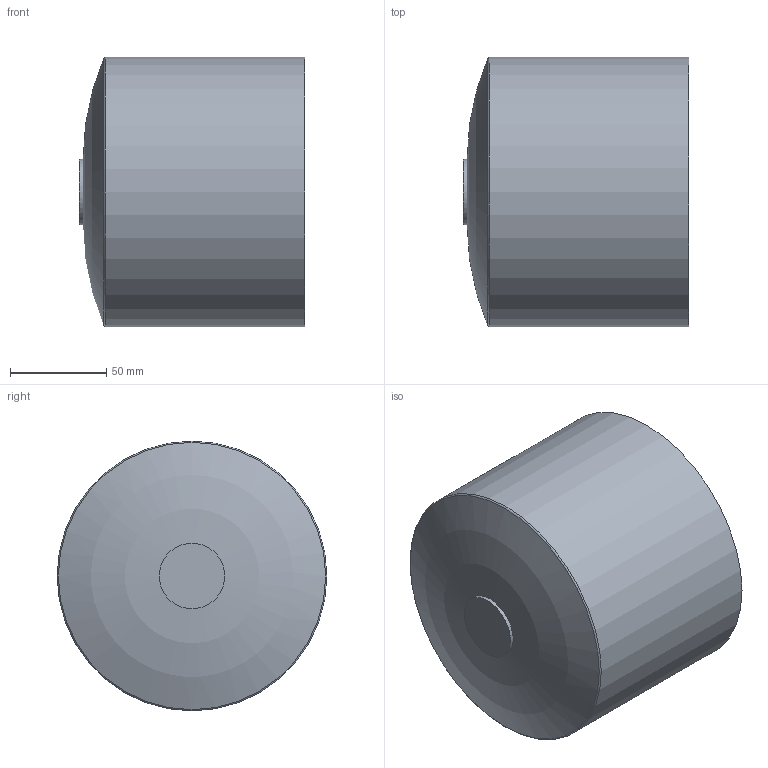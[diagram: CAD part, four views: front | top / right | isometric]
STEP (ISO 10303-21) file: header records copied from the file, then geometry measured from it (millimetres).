
FILE_DESCRIPTION(/* description */ ('Unknown'),/* implementation_level */ '2;1');
FILE_NAME(/* name */ 'CAP140G',/* time_stamp */ '2022-04-02T10:52:05+02:00',/* author */ ('Unknown'),/* organization */ ('Unknown'),/* preprocessor_version */ 'ST-DEVELOPER v18.1',/* originating_system */ 'Solid Edge',/* authorisation */ 'Unknown');
FILE_SCHEMA (('AUTOMOTIVE_DESIGN {1 0 10303 214 3 1 1}'));
Length unit declared in the file: millimetre
Products named in the file (1): CAP140G
Bounding box: 117 x 140 x 140 mm (x, y, z)
Volume: 923401.6 mm3; surface area: 107790.6 mm2
Topology: 1 solids, 1 shells, 13 faces, 23 edges, 14 vertices
Faces by surface type: cylinder 5, plane 4, torus 3, cone 1
Full cylindrical faces by diameter (mm): 34 x1, 101.6 x2, 108.6 x1, 140 x1
Entity records: 284 total; most frequent: DIRECTION 52, CARTESIAN_POINT 38, AXIS2_PLACEMENT_3D 26, ORIENTED_EDGE 24, EDGE_LOOP 24, FACE_BOUND 24, ADVANCED_FACE 13, EDGE_CURVE 12
